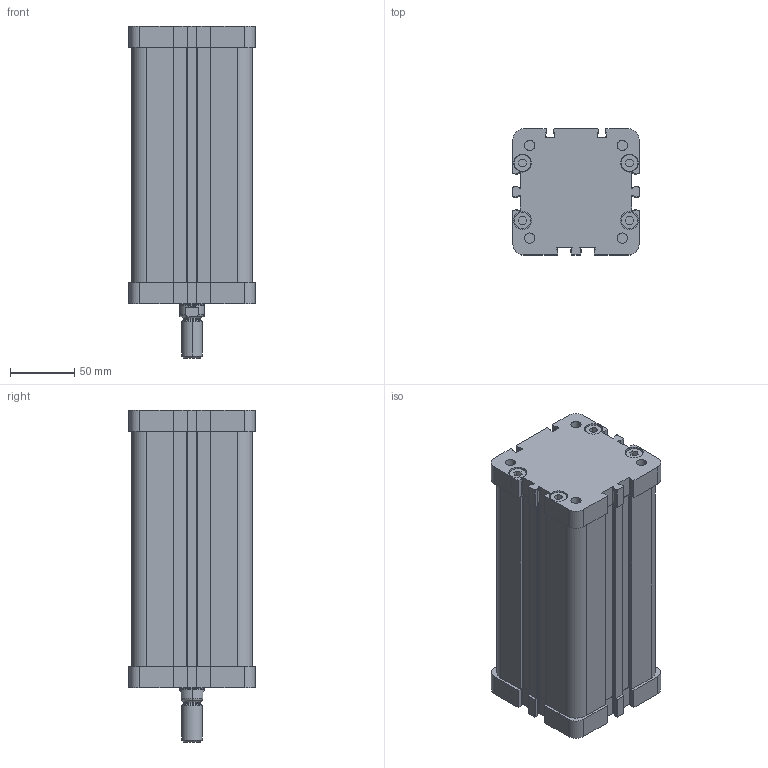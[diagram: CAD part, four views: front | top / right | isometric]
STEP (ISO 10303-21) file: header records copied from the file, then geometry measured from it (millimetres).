
FILE_DESCRIPTION((''),'2;1');
FILE_NAME('P31M20800160.stp','2010-02-25T20:53:38',('B. Petkovic 2010'),('AZ PNEUMATICA S.r.l.'),'Mechanical Desktop 2006','Mechanical Desktop 2006','Via Marco Biagi 6, I-20020 Misinto(MI) Italy, azpneu@tin.it');
FILE_SCHEMA(('CONFIG_CONTROL_DESIGN'));
Length unit declared in the file: millimetre
Products named in the file (2): P31M20800160; COMPACT CILINDRI
Assembly tree (1 placements, depth 2):
  P31M20800160
    COMPACT CILINDRI
Bounding box: 98 x 98 x 258 mm (x, y, z)
Volume: 1824522.9 mm3; surface area: 133137.8 mm2
Topology: 1 solids, 1 shells, 528 faces, 1399 edges, 911 vertices
Faces by surface type: plane 322, cylinder 194, cone 6, bspline 4, torus 2
Entity records: 16765 total; most frequent: CARTESIAN_POINT 3100, DIRECTION 2942, ORIENTED_EDGE 2798, EDGE_CURVE 1399, AXIS2_PLACEMENT_3D 1019, VERTEX_POINT 911, VECTOR 904, LINE 904
